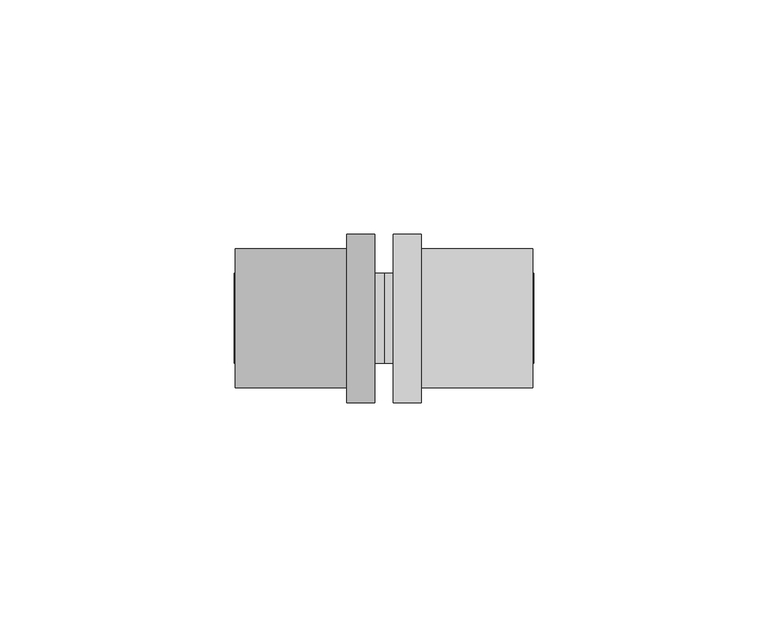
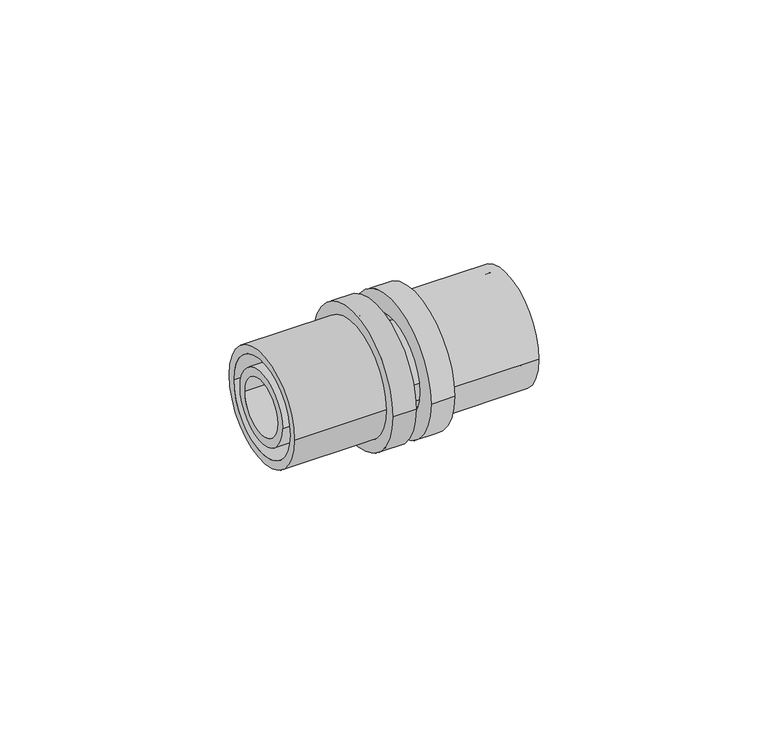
"""IFC4 building model written with IfcOpenShell, lengths in millimetres: pipe fitting geometry, FASTLOC_Coupling equal EX+ : FSL C EX AT."""

import ifcopenshell
import ifcopenshell.guid

model = None  # the IFC model being written
_history = None  # IfcOwnerHistory: only IFC2X3 demands one
_inside = {}  # id of a spatial element -> (the spatial element, [elements in it])
_under = {}  # id of a project, library or spatial element -> (it, [spatial elements below it])
_declared = {}  # id of a project -> (the project, [libraries it declares])
_typed = {}  # id of a type object -> (the type object, [elements of that type])
_made_of = {}  # id of a material, layer set ... -> (it, [elements and type objects made of it])


def new_model(schema):
    """Start an empty IFC model of exactly this schema.

    Asked for "IFC4X3", IfcOpenShell would pick the latest addendum, in which some entities
    have other attributes; the version numbers below select the first issue.
    IFC2X3 requires an IfcOwnerHistory on every rooted entity: one is made here for all.
    """
    global model, _history
    if schema == "IFC4X3":
        model = ifcopenshell.file(schema_version=(4, 3, 0, 0))
    else:
        model = ifcopenshell.file(schema=schema)
    _inside.clear()
    _under.clear()
    _declared.clear()
    _typed.clear()
    _made_of.clear()
    _history = None
    if model.schema == "IFC2X3":
        org = make("IfcOrganization", Name="unknown")
        user = make(
            "IfcPersonAndOrganization",
            ThePerson=make("IfcPerson", FamilyName="unknown"),
            TheOrganization=org,
        )
        app = make(
            "IfcApplication",
            ApplicationDeveloper=org,
            Version="unknown",
            ApplicationFullName="unknown",
            ApplicationIdentifier="unknown",
        )
        _history = make(
            "IfcOwnerHistory",
            OwningUser=user,
            OwningApplication=app,
            ChangeAction="ADDED",
            CreationDate=0,
        )
    return model


def make(cls, **values):
    """One entity of the class cls with the attributes given. An attribute that is None is left unset."""
    return model.create_entity(
        cls, **{name: value for name, value in values.items() if value is not None}
    )


def rooted(cls, **values):
    """An entity with a GlobalId (a new one), such as an element, a storey or a relation."""
    return make(cls, GlobalId=ifcopenshell.guid.new(), OwnerHistory=_history, **values)


def si_unit(unit_type, name, prefix=None):
    """IfcSIUnit, for example si_unit("LENGTHUNIT", "METRE", prefix="MILLI")."""
    return make("IfcSIUnit", UnitType=unit_type, Prefix=prefix, Name=name)


def assignment(units):
    """IfcUnitAssignment: the units of a project."""
    return None if units is None else make("IfcUnitAssignment", Units=units)


def point(xyz):
    """IfcCartesianPoint."""
    return None if xyz is None else make("IfcCartesianPoint", Coordinates=xyz)


def direction(xyz):
    """IfcDirection."""
    return None if xyz is None else make("IfcDirection", DirectionRatios=xyz)


def frame(location, z_axis=None, x_axis=None):
    """IfcAxis2Placement3D, a coordinate frame: its origin and axes. An axis left out is left unset."""
    return make(
        "IfcAxis2Placement3D",
        Location=point(location),
        Axis=direction(z_axis),
        RefDirection=direction(x_axis),
    )


def origin():
    """The frame at (0, 0, 0) with its axes left unset."""
    return frame((0.0, 0.0, 0.0))


def place(relative_to, where):
    """IfcLocalPlacement: puts the frame where relative to a parent placement (None: the world)."""
    return make(
        "IfcLocalPlacement", PlacementRelTo=relative_to, RelativePlacement=where
    )


def context(
    kind, dimensions, precision=None, world=None, true_north=None, identifier=None
):
    """IfcGeometricRepresentationContext, for example the 3D "Model" context."""
    return make(
        "IfcGeometricRepresentationContext",
        ContextIdentifier=identifier,
        ContextType=kind,
        CoordinateSpaceDimension=dimensions,
        Precision=precision,
        WorldCoordinateSystem=world,
        TrueNorth=true_north,
    )


def project(units=None, contexts=None):
    """IfcProject with its units and contexts."""
    return rooted(
        "IfcProject",
        Name="project",
        RepresentationContexts=contexts,
        UnitsInContext=assignment(units),
    )


def spatial(cls, under=None, at=None, **own):
    """A site, building, storey or space (cls), placed at a placement, below another one or the project."""
    s = rooted(cls, ObjectPlacement=at, **own)
    if under is not None:
        _under.setdefault(under.id(), (under, []))[1].append(s)
    return s


def polyline(points):
    """IfcPolyline through the points."""
    return make("IfcPolyline", Points=[point(p) for p in points])


def circle_curve(where, radius):
    """IfcCircle in the frame where."""
    return make("IfcCircle", Position=where, Radius=radius)


def shape(context_of_items, identifier, shape_type, items):
    """IfcShapeRepresentation: the items that make up one representation, for example the "Body"."""
    return make(
        "IfcShapeRepresentation",
        ContextOfItems=context_of_items,
        RepresentationIdentifier=identifier,
        RepresentationType=shape_type,
        Items=items,
    )


def source(mapping_origin, context_of_items, identifier, shape_type, items):
    """IfcRepresentationMap: a shape defined once, which mapped items show again and again."""
    return make(
        "IfcRepresentationMap",
        MappingOrigin=mapping_origin,
        MappedRepresentation=shape(context_of_items, identifier, shape_type, items),
    )


def transform(
    local_origin,
    x_axis=None,
    y_axis=None,
    z_axis=None,
    scale=None,
    scale2=None,
    scale3=None,
    uniform=True,
):
    """IfcCartesianTransformationOperator3D, or its non-uniform kind. x_axis, y_axis, z_axis: its Axis1, 2, 3."""
    if uniform:
        return make(
            "IfcCartesianTransformationOperator3D",
            Axis1=direction(x_axis),
            Axis2=direction(y_axis),
            LocalOrigin=point(local_origin),
            Scale=scale,
            Axis3=direction(z_axis),
        )
    return make(
        "IfcCartesianTransformationOperator3DnonUniform",
        Axis1=direction(x_axis),
        Axis2=direction(y_axis),
        LocalOrigin=point(local_origin),
        Scale=scale,
        Axis3=direction(z_axis),
        Scale2=scale2,
        Scale3=scale3,
    )


def mapped(mapping_source, mapping_target):
    """IfcMappedItem: shows the shape of a source again, moved by a transform."""
    return make(
        "IfcMappedItem", MappingSource=mapping_source, MappingTarget=mapping_target
    )


def made_of(thing, what):
    """Note that an element or type object is made of a material, layer set ...; save() writes the relation."""
    if what is not None:
        _made_of.setdefault(what.id(), (what, []))[1].append(thing)
    return thing


def element(
    cls,
    number,
    at=None,
    inside=None,
    cuts=None,
    type_object=None,
    material=None,
    context=None,
    identifier="Body",
    shape_type=None,
    held_by="IfcProductDefinitionShape",
    body=None,
    shapes=None,
    **own,
):
    """One element of the class cls, such as IfcWall. Its Tag is "e" and its number.

    at: its placement. inside: the storey or other place that contains it. cuts: it is an
    opening in that element (IfcRelVoidsElement). A single representation is given by context,
    identifier, shape_type and body (its items); several are given by shapes. held_by: the class
    of the entity that holds the representations. save() writes the other relations.
    """
    e = rooted(cls, Tag="e%d" % number, ObjectPlacement=at, **own)
    if body is not None:
        shapes = [shape(context, identifier, shape_type, body)]
    if shapes is not None:
        e.Representation = make(held_by, Representations=shapes)
    if inside is not None:
        _inside.setdefault(inside.id(), (inside, []))[1].append(e)
    if cuts is not None:
        rooted(
            "IfcRelVoidsElement", RelatingBuildingElement=cuts, RelatedOpeningElement=e
        )
    if type_object is not None:
        _typed.setdefault(type_object.id(), (type_object, []))[1].append(e)
    return made_of(e, material)


def aggregate(whole, parts):
    """IfcRelAggregates: a whole, such as a stair, and the parts it consists of."""
    return rooted("IfcRelAggregates", RelatingObject=whole, RelatedObjects=parts)


def save(model, path):
    """Write the relations noted so far, then the file.

    IfcRelAggregates (storeys below a building ...), IfcRelContainedInSpatialStructure (elements
    in a storey), IfcRelDefinesByType, IfcRelAssociatesMaterial and IfcRelDeclares: one each for
    every whole, place, type object, material and project.
    """
    for whole, parts in _under.values():
        aggregate(whole, parts)
    for where, things in _inside.values():
        rooted(
            "IfcRelContainedInSpatialStructure",
            RelatedElements=things,
            RelatingStructure=where,
        )
    for kind, things in _typed.values():
        rooted("IfcRelDefinesByType", RelatedObjects=things, RelatingType=kind)
    for what, things in _made_of.values():
        rooted("IfcRelAssociatesMaterial", RelatedObjects=things, RelatingMaterial=what)
    for by, libraries in _declared.values():
        rooted("IfcRelDeclares", RelatingContext=by, RelatedDefinitions=libraries)
    model.write(path)


def plane_surface(at):
    """IfcPlane: the flat surface through the origin of the frame at, square to its z axis."""
    return make("IfcPlane", Position=at)


def cylinder_surface(at, radius):
    """IfcCylindricalSurface: all points at the distance radius from the z axis of the frame at."""
    return make("IfcCylindricalSurface", Position=at, Radius=radius)


def revolved_surface(curve, axis_point, axis_direction):
    """IfcSurfaceOfRevolution: the curve turned about the line through axis_point along axis_direction."""
    return make(
        "IfcSurfaceOfRevolution",
        SweptCurve=make("IfcArbitraryOpenProfileDef", ProfileType="CURVE", Curve=curve),
        AxisPosition=make("IfcAxis1Placement", Location=point(axis_point), Axis=direction(axis_direction)),
    )


def advanced_brep(points, edges, surfaces, faces):
    """IfcAdvancedBrep: a solid bounded by faces that lie on surfaces and meet in shared edges.

    An edge is (start, end): straight between two places in points (the first is 0);
    or (start, end, curve); or (start, end, curve, False) where it runs against its curve.
    A face is (place in surfaces, loops), or (place, loops, False) where it looks against
    its surface's normal. A loop lists edges by number (the first is 1), with a minus sign
    where the edge is run from its end to its start. The first loop is the outer one.
    """
    corners = [point(p) for p in points]
    vertices = [make("IfcVertexPoint", VertexGeometry=c) for c in corners]
    made = []
    for start, end, *more in edges:
        made.append(
            make(
                "IfcEdgeCurve",
                EdgeStart=vertices[start],
                EdgeEnd=vertices[end],
                EdgeGeometry=more[0] if more else make("IfcPolyline", Points=[corners[start], corners[end]]),
                SameSense=more[1] if len(more) > 1 else True,
            )
        )
    hull = []
    for where, loops, *sense in faces:
        bounds = []
        for j, loop in enumerate(loops):
            ring = [make("IfcOrientedEdge", EdgeElement=made[abs(k) - 1], Orientation=k > 0) for k in loop]
            bounds.append(
                make(
                    "IfcFaceOuterBound" if j == 0 else "IfcFaceBound",
                    Bound=make("IfcEdgeLoop", EdgeList=ring),
                    Orientation=True,
                )
            )
        hull.append(make("IfcAdvancedFace", Bounds=bounds, FaceSurface=surfaces[where], SameSense=sense[0] if sense else True))
    return make("IfcAdvancedBrep", Outer=make("IfcClosedShell", CfsFaces=hull))


def pipe_fitting_d75665eb(model_context):
    return source(origin(), model_context, "Body", "AdvancedBrep", [
        advanced_brep(
        [(8.0, 18.0, 0.0), (8.0, -18.0, 0.0), (2.0, -18.0, 0.0), (2.0, 18.0, 0.0), (31.8, 14.85, 0.0), (31.8, -14.85, 0.0), (8.0, -14.85, 0.0), (8.0, 14.85, 0.0), (2.0, 12.65, 0.0), (2.0, -12.65, 0.0), (31.8, -12.65, 0.0), (31.8, 12.65, 0.0)],
        [
            (0, 1, circle_curve(frame((8.0, 0.0, 0.0), z_axis=(-1.0, 0.0, 0.0), x_axis=(0.0, -1.0, 0.0)), 18.0)),
            (1, 2),
            (2, 3, circle_curve(frame((2.0, 0.0, 0.0), z_axis=(1.0, 0.0, 0.0), x_axis=(0.0, -1.0, 0.0)), 18.0)),
            (3, 0),
            (4, 5, circle_curve(frame((31.8, 0.0, 0.0), z_axis=(-1.0, 0.0, 0.0), x_axis=(0.0, -1.0, 0.0)), 14.85)),
            (5, 6),
            (6, 7, circle_curve(frame((8.0, 0.0, 0.0), z_axis=(1.0, 0.0, 0.0), x_axis=(0.0, -1.0, 0.0)), 14.85)),
            (7, 4),
            (8, 9, circle_curve(frame((2.0, 0.0, 0.0), z_axis=(-1.0, 0.0, 0.0), x_axis=(0.0, -1.0, 0.0)), 12.65)),
            (9, 10),
            (10, 11, circle_curve(frame((31.8, 0.0, 0.0), z_axis=(1.0, 0.0, 0.0), x_axis=(0.0, -1.0, 0.0)), 12.65)),
            (11, 8),
            (1, 0, circle_curve(frame((8.0, 0.0, 0.0), z_axis=(-1.0, 0.0, 0.0), x_axis=(0.0, 1.0, 0.0)), 18.0)),
            (3, 2, circle_curve(frame((2.0, 0.0, 0.0), z_axis=(1.0, 0.0, 0.0), x_axis=(0.0, 1.0, 0.0)), 18.0)),
            (6, 7, circle_curve(frame((8.0, 0.0, 0.0), z_axis=(-1.0, 0.0, 0.0), x_axis=(0.0, 1.0, 0.0)), 14.85)),
            (5, 4, circle_curve(frame((31.8, 0.0, 0.0), z_axis=(-1.0, 0.0, 0.0), x_axis=(0.0, 1.0, 0.0)), 14.85)),
            (10, 11, circle_curve(frame((31.8, 0.0, 0.0), z_axis=(-1.0, 0.0, 0.0), x_axis=(0.0, 1.0, 0.0)), 12.65)),
            (9, 8, circle_curve(frame((2.0, 0.0, 0.0), z_axis=(-1.0, 0.0, 0.0), x_axis=(0.0, 1.0, 0.0)), 12.65)),
        ],
        [
            cylinder_surface(frame((2.0, 0.0, 0.0), z_axis=(1.0, 0.0, 0.0), x_axis=(0.0, -1.0, 0.0)), 18.0),
            cylinder_surface(frame((2.0, 0.0, 0.0), z_axis=(1.0, 0.0, 0.0), x_axis=(0.0, -1.0, 0.0)), 14.85),
            revolved_surface(polyline([(31.8, -12.65, 0.0), (2.0, -12.65, 0.0)]), (2.0, 0.0, 0.0), (1.0, 0.0, 0.0)),
            cylinder_surface(frame((2.0, 0.0, 0.0), z_axis=(1.0, 0.0, 0.0), x_axis=(0.0, 1.0, 0.0)), 18.0),
            plane_surface(frame((8.0, 0.0, 0.0), z_axis=(1.0, 0.0, 0.0), x_axis=(0.0, 1.0, 0.0))),
            cylinder_surface(frame((2.0, 0.0, 0.0), z_axis=(1.0, 0.0, 0.0), x_axis=(0.0, 1.0, 0.0)), 14.85),
            plane_surface(frame((31.8, 0.0, 0.0), z_axis=(1.0, 0.0, 0.0), x_axis=(0.0, 1.0, 0.0))),
            revolved_surface(polyline([(31.8, 12.65, 0.0), (2.0, 12.65, 0.0)]), (2.0, 0.0, 0.0), (1.0, 0.0, 0.0)),
            plane_surface(frame((2.0, 0.0, 0.0), z_axis=(-1.0, 0.0, 0.0), x_axis=(0.0, 1.0, 0.0))),
        ],
        [
            (0, [[1, 2, 3, 4]]),
            (1, [[5, 6, 7, 8]]),
            (2, [[9, 10, 11, 12]]),
            (3, [[13, -4, 14, -2]]),
            (4, [[-13, -1], [15, -7]]),
            (5, [[16, -8, -15, -6]]),
            (6, [[-16, -5], [17, -11]]),
            (7, [[18, -12, -17, -10]]),
            (8, [[-14, -3], [-18, -9]]),
        ],
    ),
        advanced_brep(
        [(-8.0, -18.0, 0.0), (-8.0, 18.0, 0.0), (-2.0, 18.0, 0.0), (-2.0, -18.0, 0.0), (-31.8, -14.85, 0.0), (-31.8, 14.85, 0.0), (-8.0, 14.85, 0.0), (-8.0, -14.85, 0.0), (-2.0, -12.65, 0.0), (-2.0, 12.65, 0.0), (-31.8, 12.65, 0.0), (-31.8, -12.65, 0.0)],
        [
            (0, 1, circle_curve(frame((-8.0, 0.0, 0.0), z_axis=(1.0, 0.0, 0.0), x_axis=(0.0, 1.0, 0.0)), 18.0)),
            (1, 2),
            (2, 3, circle_curve(frame((-2.0, 0.0, 0.0), z_axis=(-1.0, 0.0, 0.0), x_axis=(0.0, 1.0, 0.0)), 18.0)),
            (3, 0),
            (4, 5, circle_curve(frame((-31.8, 0.0, 0.0), z_axis=(1.0, 0.0, 0.0), x_axis=(0.0, 1.0, 0.0)), 14.85)),
            (5, 6),
            (6, 7, circle_curve(frame((-8.0, 0.0, 0.0), z_axis=(-1.0, 0.0, 0.0), x_axis=(0.0, 1.0, 0.0)), 14.85)),
            (7, 4),
            (8, 9, circle_curve(frame((-2.0, 0.0, 0.0), z_axis=(1.0, 0.0, 0.0), x_axis=(0.0, 1.0, 0.0)), 12.65)),
            (9, 10),
            (10, 11, circle_curve(frame((-31.8, 0.0, 0.0), z_axis=(-1.0, 0.0, 0.0), x_axis=(0.0, 1.0, 0.0)), 12.65)),
            (11, 8),
            (1, 0, circle_curve(frame((-8.0, 0.0, 0.0), z_axis=(1.0, 0.0, 0.0), x_axis=(0.0, -1.0, 0.0)), 18.0)),
            (3, 2, circle_curve(frame((-2.0, 0.0, 0.0), z_axis=(-1.0, 0.0, 0.0), x_axis=(0.0, -1.0, 0.0)), 18.0)),
            (6, 7, circle_curve(frame((-8.0, 0.0, 0.0), z_axis=(1.0, 0.0, 0.0), x_axis=(0.0, -1.0, 0.0)), 14.85)),
            (5, 4, circle_curve(frame((-31.8, 0.0, 0.0), z_axis=(1.0, 0.0, 0.0), x_axis=(0.0, -1.0, 0.0)), 14.85)),
            (10, 11, circle_curve(frame((-31.8, 0.0, 0.0), z_axis=(1.0, 0.0, 0.0), x_axis=(0.0, -1.0, 0.0)), 12.65)),
            (9, 8, circle_curve(frame((-2.0, 0.0, 0.0), z_axis=(1.0, 0.0, 0.0), x_axis=(0.0, -1.0, 0.0)), 12.65)),
        ],
        [
            cylinder_surface(frame((-2.0, 0.0, 0.0), z_axis=(-1.0, 0.0, 0.0), x_axis=(0.0, 1.0, 0.0)), 18.0),
            cylinder_surface(frame((-2.0, 0.0, 0.0), z_axis=(-1.0, 0.0, 0.0), x_axis=(0.0, 1.0, 0.0)), 14.85),
            revolved_surface(polyline([(-31.8, 12.65, 0.0), (-2.0, 12.65, 0.0)]), (-2.0, 0.0, 0.0), (-1.0, 0.0, 0.0)),
            cylinder_surface(frame((-2.0, 0.0, 0.0), z_axis=(-1.0, 0.0, 0.0), x_axis=(0.0, -1.0, 0.0)), 18.0),
            plane_surface(frame((-8.0, 0.0, 0.0), z_axis=(-1.0, 0.0, 0.0), x_axis=(0.0, -1.0, 0.0))),
            cylinder_surface(frame((-2.0, 0.0, 0.0), z_axis=(-1.0, 0.0, 0.0), x_axis=(0.0, -1.0, 0.0)), 14.85),
            plane_surface(frame((-31.8, 0.0, 0.0), z_axis=(-1.0, 0.0, 0.0), x_axis=(0.0, -1.0, 0.0))),
            revolved_surface(polyline([(-31.8, -12.65, 0.0), (-2.0, -12.65, 0.0)]), (-2.0, 0.0, 0.0), (-1.0, 0.0, 0.0)),
            plane_surface(frame((-2.0, 0.0, 0.0), z_axis=(1.0, 0.0, 0.0), x_axis=(0.0, -1.0, 0.0))),
        ],
        [
            (0, [[1, 2, 3, 4]]),
            (1, [[5, 6, 7, 8]]),
            (2, [[9, 10, 11, 12]]),
            (3, [[13, -4, 14, -2]]),
            (4, [[-13, -1], [15, -7]]),
            (5, [[16, -8, -15, -6]]),
            (6, [[-16, -5], [17, -11]]),
            (7, [[18, -12, -17, -10]]),
            (8, [[-14, -3], [-18, -9]]),
        ],
    ),
        advanced_brep(
        [(8.0, 11.1, 0.0), (8.0, -11.1, 0.0), (5.2, -11.1, 0.0), (5.2, 11.1, 0.0), (32.0, 9.6, 0.0), (32.0, -9.6, 0.0), (8.0, -9.6, 0.0), (8.0, 9.6, 0.0), (-32.0, 7.35, 0.0), (-32.0, -7.35, 0.0), (32.0, -7.35, 0.0), (32.0, 7.35, 0.0), (-8.0, 9.6, 0.0), (-8.0, -9.6, 0.0), (-32.0, -9.6, 0.0), (-32.0, 9.6, 0.0), (-5.2, 11.1, 0.0), (-5.2, -11.1, 0.0), (-8.0, -11.1, 0.0), (-8.0, 11.1, 0.0), (0.0, 9.6, 0.0), (0.0, -9.6, 0.0), (-5.2, -9.6, 0.0), (-5.2, 9.6, 0.0), (5.2, 9.6, 0.0), (5.2, -9.6, 0.0)],
        [
            (0, 1, circle_curve(frame((8.0, 0.0, 0.0), z_axis=(-1.0, 0.0, 0.0), x_axis=(0.0, -1.0, 0.0)), 11.1)),
            (1, 2),
            (2, 3, circle_curve(frame((5.2, 0.0, 0.0), z_axis=(1.0, 0.0, 0.0), x_axis=(0.0, -1.0, 0.0)), 11.1)),
            (3, 0),
            (4, 5, circle_curve(frame((32.0, 0.0, 0.0), z_axis=(-1.0, 0.0, 0.0), x_axis=(0.0, -1.0, 0.0)), 9.6)),
            (5, 6),
            (6, 7, circle_curve(frame((8.0, 0.0, 0.0), z_axis=(1.0, 0.0, 0.0), x_axis=(0.0, -1.0, 0.0)), 9.6)),
            (7, 4),
            (8, 9, circle_curve(frame((-32.0, 0.0, 0.0), z_axis=(-1.0, 0.0, 0.0), x_axis=(0.0, -1.0, 0.0)), 7.35)),
            (9, 10),
            (10, 11, circle_curve(frame((32.0, 0.0, 0.0), z_axis=(1.0, 0.0, 0.0), x_axis=(0.0, -1.0, 0.0)), 7.35)),
            (11, 8),
            (12, 13, circle_curve(frame((-8.0, 0.0, 0.0), z_axis=(-1.0, 0.0, 0.0), x_axis=(0.0, -1.0, 0.0)), 9.6)),
            (13, 14),
            (14, 15, circle_curve(frame((-32.0, 0.0, 0.0), z_axis=(1.0, 0.0, 0.0), x_axis=(0.0, -1.0, 0.0)), 9.6)),
            (15, 12),
            (16, 17, circle_curve(frame((-5.2, 0.0, 0.0), z_axis=(-1.0, 0.0, 0.0), x_axis=(0.0, -1.0, 0.0)), 11.1)),
            (17, 18),
            (18, 19, circle_curve(frame((-8.0, 0.0, 0.0), z_axis=(1.0, 0.0, 0.0), x_axis=(0.0, -1.0, 0.0)), 11.1)),
            (19, 16),
            (20, 21, circle_curve(frame((0.0, 0.0, 0.0), z_axis=(-1.0, 0.0, 0.0), x_axis=(0.0, -1.0, 0.0)), 9.6)),
            (21, 22),
            (22, 23, circle_curve(frame((-5.2, 0.0, 0.0), z_axis=(1.0, 0.0, 0.0), x_axis=(0.0, -1.0, 0.0)), 9.6)),
            (23, 20),
            (24, 25, circle_curve(frame((5.2, 0.0, 0.0), z_axis=(-1.0, 0.0, 0.0), x_axis=(0.0, -1.0, 0.0)), 9.6)),
            (25, 21),
            (20, 24),
            (1, 0, circle_curve(frame((8.0, 0.0, 0.0), z_axis=(-1.0, 0.0, 0.0), x_axis=(0.0, 1.0, 0.0)), 11.1)),
            (3, 2, circle_curve(frame((5.2, 0.0, 0.0), z_axis=(1.0, 0.0, 0.0), x_axis=(0.0, 1.0, 0.0)), 11.1)),
            (6, 7, circle_curve(frame((8.0, 0.0, 0.0), z_axis=(-1.0, 0.0, 0.0), x_axis=(0.0, 1.0, 0.0)), 9.6)),
            (5, 4, circle_curve(frame((32.0, 0.0, 0.0), z_axis=(-1.0, 0.0, 0.0), x_axis=(0.0, 1.0, 0.0)), 9.6)),
            (10, 11, circle_curve(frame((32.0, 0.0, 0.0), z_axis=(-1.0, 0.0, 0.0), x_axis=(0.0, 1.0, 0.0)), 7.35)),
            (9, 8, circle_curve(frame((-32.0, 0.0, 0.0), z_axis=(-1.0, 0.0, 0.0), x_axis=(0.0, 1.0, 0.0)), 7.35)),
            (14, 15, circle_curve(frame((-32.0, 0.0, 0.0), z_axis=(-1.0, 0.0, 0.0), x_axis=(0.0, 1.0, 0.0)), 9.6)),
            (13, 12, circle_curve(frame((-8.0, 0.0, 0.0), z_axis=(-1.0, 0.0, 0.0), x_axis=(0.0, 1.0, 0.0)), 9.6)),
            (18, 19, circle_curve(frame((-8.0, 0.0, 0.0), z_axis=(-1.0, 0.0, 0.0), x_axis=(0.0, 1.0, 0.0)), 11.1)),
            (17, 16, circle_curve(frame((-5.2, 0.0, 0.0), z_axis=(-1.0, 0.0, 0.0), x_axis=(0.0, 1.0, 0.0)), 11.1)),
            (22, 23, circle_curve(frame((-5.2, 0.0, 0.0), z_axis=(-1.0, 0.0, 0.0), x_axis=(0.0, 1.0, 0.0)), 9.6)),
            (21, 20, circle_curve(frame((0.0, 0.0, 0.0), z_axis=(-1.0, 0.0, 0.0), x_axis=(0.0, 1.0, 0.0)), 9.6)),
            (25, 24, circle_curve(frame((5.2, 0.0, 0.0), z_axis=(-1.0, 0.0, 0.0), x_axis=(0.0, 1.0, 0.0)), 9.6)),
        ],
        [
            cylinder_surface(frame((0.0, 0.0, 0.0), z_axis=(1.0, 0.0, 0.0), x_axis=(0.0, -1.0, 0.0)), 11.1),
            cylinder_surface(frame((0.0, 0.0, 0.0), z_axis=(1.0, 0.0, 0.0), x_axis=(0.0, -1.0, 0.0)), 9.6),
            revolved_surface(polyline([(32.0, -7.35, 0.0), (-32.0, -7.35, 0.0)]), (0.0, 0.0, 0.0), (1.0, 0.0, 0.0)),
            cylinder_surface(frame((0.0, 0.0, 0.0), z_axis=(1.0, 0.0, 0.0), x_axis=(0.0, 1.0, 0.0)), 11.1),
            plane_surface(frame((8.0, 0.0, 0.0), z_axis=(1.0, 0.0, 0.0), x_axis=(0.0, 1.0, 0.0))),
            cylinder_surface(frame((0.0, 0.0, 0.0), z_axis=(1.0, 0.0, 0.0), x_axis=(0.0, 1.0, 0.0)), 9.6),
            plane_surface(frame((32.0, 0.0, 0.0), z_axis=(1.0, 0.0, 0.0), x_axis=(0.0, 1.0, 0.0))),
            revolved_surface(polyline([(32.0, 7.35, 0.0), (-32.0, 7.35, 0.0)]), (0.0, 0.0, 0.0), (1.0, 0.0, 0.0)),
            plane_surface(frame((-32.0, 0.0, 0.0), z_axis=(-1.0, 0.0, 0.0), x_axis=(0.0, 1.0, 0.0))),
            plane_surface(frame((-8.0, 0.0, 0.0), z_axis=(-1.0, 0.0, 0.0), x_axis=(0.0, 1.0, 0.0))),
            plane_surface(frame((-5.2, 0.0, 0.0), z_axis=(1.0, 0.0, 0.0), x_axis=(0.0, 1.0, 0.0))),
            plane_surface(frame((5.2, 0.0, 0.0), z_axis=(-1.0, 0.0, 0.0), x_axis=(0.0, 1.0, 0.0))),
        ],
        [
            (0, [[1, 2, 3, 4]]),
            (1, [[5, 6, 7, 8]]),
            (2, [[9, 10, 11, 12]]),
            (1, [[13, 14, 15, 16]]),
            (0, [[17, 18, 19, 20]]),
            (1, [[21, 22, 23, 24]]),
            (1, [[25, 26, -21, 27]]),
            (3, [[28, -4, 29, -2]]),
            (4, [[-28, -1], [30, -7]]),
            (5, [[31, -8, -30, -6]]),
            (6, [[-31, -5], [32, -11]]),
            (7, [[33, -12, -32, -10]]),
            (8, [[34, -15], [-33, -9]]),
            (5, [[35, -16, -34, -14]]),
            (9, [[36, -19], [-35, -13]]),
            (3, [[37, -20, -36, -18]]),
            (10, [[-37, -17], [38, -23]]),
            (5, [[39, -24, -38, -22]]),
            (5, [[40, -27, -39, -26]]),
            (11, [[-29, -3], [-40, -25]]),
        ],
    ),
    ])


if __name__ == "__main__":
    model = new_model("IFC4")
    model_context = context("Model", 3, world=origin())
    ifc_project = project(units=[si_unit("LENGTHUNIT", "METRE", prefix="MILLI")], contexts=[model_context])
    site = spatial("IfcSite", under=ifc_project)
    building = spatial("IfcBuilding", under=site)
    placement = place(None, origin())
    pipe_fitting_shape = pipe_fitting_d75665eb(model_context)
    element("IfcPipeFitting", 1, ObjectType="FASTLOC_Coupling equal EX+ : FSL C EX AT", at=placement, inside=building, context=model_context, shape_type="MappedRepresentation", body=[
        mapped(pipe_fitting_shape, transform((0.0, 0.0, 0.0), x_axis=(1.0, 0.0, 0.0), y_axis=(0.0, 1.0, 0.0), z_axis=(0.0, 0.0, 1.0))),
    ])
    save(model, "model.ifc")
